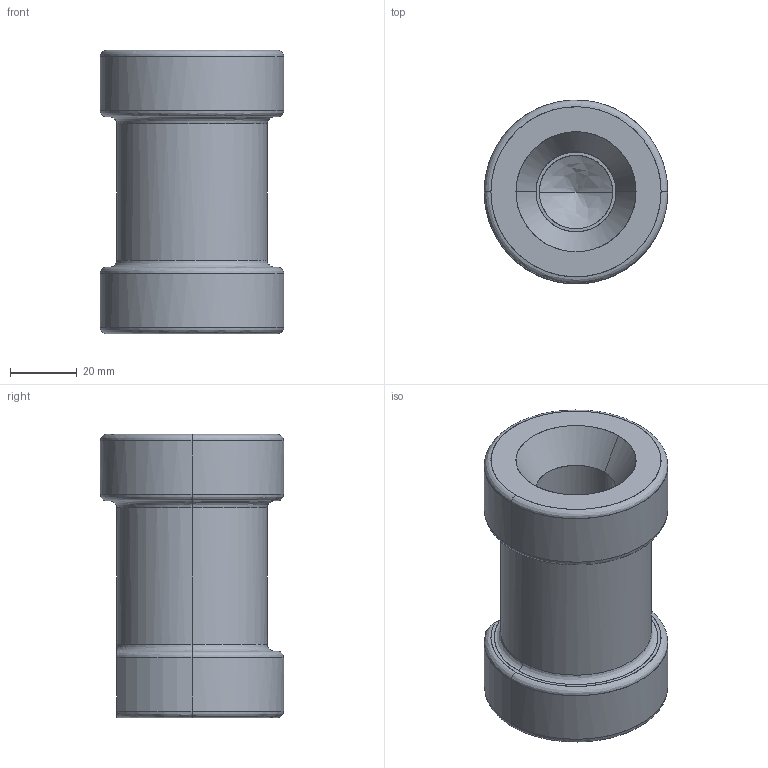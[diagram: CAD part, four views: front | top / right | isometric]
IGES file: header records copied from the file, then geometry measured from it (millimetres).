
Global section: file name: E:\UnigraphicsGraphicData\MISUMI_PRESS-PARTS\IGES\3d_csn24_03663_r00.igs; native system: NX V5.0; preprocessor: UGS NX IGES V5.0; author: MISUMI; date: 20110105.160455; units: millimetre
Bounding box: 55 x 54.93 x 85 mm (x, y, z)
Surface area: 23242.5 mm2 (no closed solid volume)
Topology: 0 solids, 0 shells, 36 faces, 264 edges, 262 vertices
Faces by surface type: bspline 36
